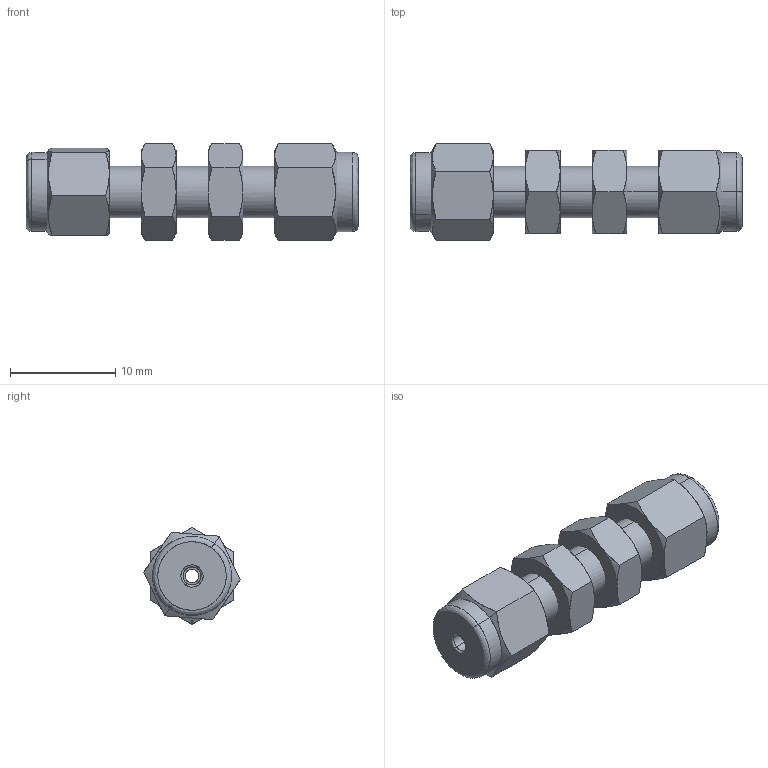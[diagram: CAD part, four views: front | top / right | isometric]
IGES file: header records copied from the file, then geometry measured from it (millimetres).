
Start section: Comment
Global section: file name: SBHU-1.igs; native system:  By UGS Corp.; preprocessor: XPlus GENERIC/IGES 3.0; author: Author; organization: Title; date: 20100528.112600; units: millimetre
Bounding box: 31.5 x 9.14 x 9.17 mm (x, y, z)
Surface area: 1576.2 mm2 (no closed solid volume)
Topology: 0 solids, 0 shells, 132 faces, 560 edges, 560 vertices
Faces by surface type: bspline 132
